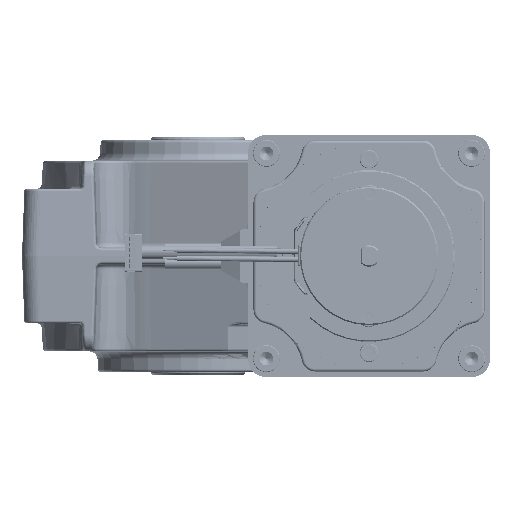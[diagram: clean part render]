
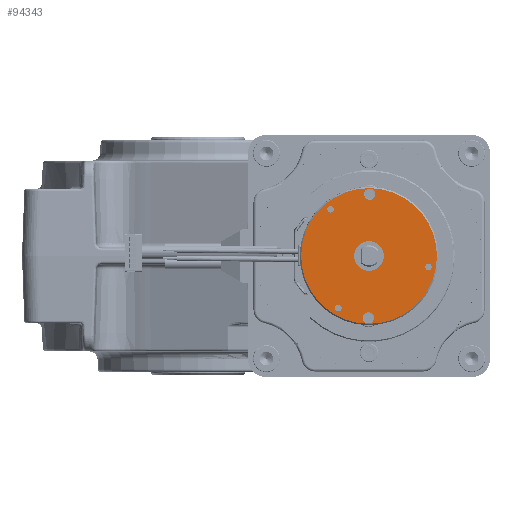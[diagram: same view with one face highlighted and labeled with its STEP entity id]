
A CAD part, left-side view. The second image highlights one B-rep face of the part: STEP entity #94343.
In plain terms, the highlighted planar face has unit normal (-1, 0, 0).
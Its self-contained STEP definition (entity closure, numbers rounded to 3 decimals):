
#571 = DIRECTION ( 'NONE',  ( 1., 0., 0. ) ) ;
#1101 = VERTEX_POINT ( 'NONE', #263324 ) ;
#1618 = VERTEX_POINT ( 'NONE', #479684 ) ;
#2239 = CIRCLE ( 'NONE', #402275, 1.23 ) ;
#5073 = EDGE_CURVE ( 'NONE', #154051, #164333, #128233, .T. ) ;
#5546 = FACE_BOUND ( 'NONE', #367936, .T. ) ;
#5866 = ORIENTED_EDGE ( 'NONE', *, *, #15558, .T. ) ;
#7604 = DIRECTION ( 'NONE',  ( 1., 0., 0. ) ) ;
#8059 = ORIENTED_EDGE ( 'NONE', *, *, #293224, .T. ) ;
#12164 = AXIS2_PLACEMENT_3D ( 'NONE', #213887, #245877, #64023 ) ;
#15558 = EDGE_CURVE ( 'NONE', #467126, #447486, #355494, .T. ) ;
#16350 = VERTEX_POINT ( 'NONE', #187376 ) ;
#19585 = DIRECTION ( 'NONE',  ( 0., -0.508, 0.861 ) ) ;
#28398 = AXIS2_PLACEMENT_3D ( 'NONE', #390172, #353278, #355687 ) ;
#30807 = CARTESIAN_POINT ( 'NONE',  ( -356.459, -28.091, 37.402 ) ) ;
#40044 = DIRECTION ( 'NONE',  ( 0., -0.508, 0.861 ) ) ;
#40792 = CARTESIAN_POINT ( 'NONE',  ( -356.459, -49.585, 32.223 ) ) ;
#49305 = DIRECTION ( 'NONE',  ( 1., 0., 0. ) ) ;
#53709 = EDGE_LOOP ( 'NONE', ( #336926, #360048 ) ) ;
#54395 = CIRCLE ( 'NONE', #273847, 1.229 ) ;
#57483 = DIRECTION ( 'NONE',  ( 1., 0., 0. ) ) ;
#63517 = PLANE ( 'NONE',  #337903 ) ;
#64023 = DIRECTION ( 'NONE',  ( 0., -0.508, 0.861 ) ) ;
#66251 = DIRECTION ( 'NONE',  ( 0., -0.508, 0.861 ) ) ;
#73135 = AXIS2_PLACEMENT_3D ( 'NONE', #30807, #141510, #180876 ) ;
#74809 = ORIENTED_EDGE ( 'NONE', *, *, #86528, .T. ) ;
#76773 = EDGE_LOOP ( 'NONE', ( #74809, #375409 ) ) ;
#78954 = DIRECTION ( 'NONE',  ( -1., 0., 0. ) ) ;
#80875 = CIRCLE ( 'NONE', #292678, 1.23 ) ;
#86528 = EDGE_CURVE ( 'NONE', #419917, #432060, #54395, .T. ) ;
#88756 = DIRECTION ( 'NONE',  ( 0., -0.508, 0.861 ) ) ;
#88847 = DIRECTION ( 'NONE',  ( 0., -0.508, 0.861 ) ) ;
#90862 = DIRECTION ( 'NONE',  ( 1., 0., 0. ) ) ;
#92892 = DIRECTION ( 'NONE',  ( 1., 0., 0. ) ) ;
#94343 = ADVANCED_FACE ( 'NONE', ( #459827, #123391, #5546, #155571, #400021, #351758, #397573 ), #63517, .F. ) ;
#94444 = CARTESIAN_POINT ( 'NONE',  ( -356.459, -50.21, 33.282 ) ) ;
#98112 = CARTESIAN_POINT ( 'NONE',  ( -356.459, -29.379, 62.209 ) ) ;
#99917 = CIRCLE ( 'NONE', #217633, 2.1 ) ;
#101221 = CIRCLE ( 'NONE', #164167, 1.229 ) ;
#107290 = EDGE_CURVE ( 'NONE', #480201, #242357, #80875, .T. ) ;
#108028 = AXIS2_PLACEMENT_3D ( 'NONE', #115929, #78954, #228856 ) ;
#109266 = EDGE_CURVE ( 'NONE', #242357, #480201, #2239, .T. ) ;
#115523 = CIRCLE ( 'NONE', #154988, 5.5 ) ;
#115929 = CARTESIAN_POINT ( 'NONE',  ( -356.459, -28.091, 37.402 ) ) ;
#123036 = CARTESIAN_POINT ( 'NONE',  ( -356.459, -28.091, 37.402 ) ) ;
#123391 = FACE_BOUND ( 'NONE', #301485, .T. ) ;
#128233 = CIRCLE ( 'NONE', #371099, 2.1 ) ;
#131929 = AXIS2_PLACEMENT_3D ( 'NONE', #142529, #405195, #66251 ) ;
#140333 = ORIENTED_EDGE ( 'NONE', *, *, #339569, .T. ) ;
#141510 = DIRECTION ( 'NONE',  ( -1., 0., 0. ) ) ;
#142529 = CARTESIAN_POINT ( 'NONE',  ( -356.459, -13.794, 54.776 ) ) ;
#149889 = EDGE_CURVE ( 'NONE', #383350, #1618, #452771, .T. ) ;
#151597 = EDGE_CURVE ( 'NONE', #432060, #419917, #101221, .T. ) ;
#153873 = CARTESIAN_POINT ( 'NONE',  ( -356.459, -15.256, 15.657 ) ) ;
#154028 = ORIENTED_EDGE ( 'NONE', *, *, #149889, .T. ) ;
#154051 = VERTEX_POINT ( 'NONE', #323657 ) ;
#154988 = AXIS2_PLACEMENT_3D ( 'NONE', #123036, #7604, #272810 ) ;
#155571 = FACE_BOUND ( 'NONE', #53709, .T. ) ;
#159103 = ORIENTED_EDGE ( 'NONE', *, *, #254600, .T. ) ;
#164167 = AXIS2_PLACEMENT_3D ( 'NONE', #219561, #371692, #40044 ) ;
#164333 = VERTEX_POINT ( 'NONE', #98112 ) ;
#170793 = DIRECTION ( 'NONE',  ( 0., -0.508, 0.861 ) ) ;
#180205 = CARTESIAN_POINT ( 'NONE',  ( -356.459, -27.87, 14.403 ) ) ;
#180876 = DIRECTION ( 'NONE',  ( 0., -0.508, 0.861 ) ) ;
#184287 = AXIS2_PLACEMENT_3D ( 'NONE', #393162, #49305, #349018 ) ;
#187376 = CARTESIAN_POINT ( 'NONE',  ( -356.459, -14.419, 55.835 ) ) ;
#196763 = VERTEX_POINT ( 'NONE', #153873 ) ;
#200461 = EDGE_CURVE ( 'NONE', #1618, #383350, #115523, .T. ) ;
#213887 = CARTESIAN_POINT ( 'NONE',  ( -356.459, -28.312, 60.401 ) ) ;
#217633 = AXIS2_PLACEMENT_3D ( 'NONE', #180205, #571, #442781 ) ;
#217763 = CARTESIAN_POINT ( 'NONE',  ( -356.459, -30.886, 42.138 ) ) ;
#218152 = ORIENTED_EDGE ( 'NONE', *, *, #279982, .T. ) ;
#219561 = CARTESIAN_POINT ( 'NONE',  ( -356.459, -16.654, 18.025 ) ) ;
#223921 = CIRCLE ( 'NONE', #12164, 2.1 ) ;
#228856 = DIRECTION ( 'NONE',  ( 0., -0.508, 0.861 ) ) ;
#242357 = VERTEX_POINT ( 'NONE', #330017 ) ;
#242707 = DIRECTION ( 'NONE',  ( 0., -0.508, 0.861 ) ) ;
#245877 = DIRECTION ( 'NONE',  ( 1., 0., 0. ) ) ;
#252663 = DIRECTION ( 'NONE',  ( 1., 0., 0. ) ) ;
#254600 = EDGE_CURVE ( 'NONE', #164333, #154051, #223921, .T. ) ;
#256860 = AXIS2_PLACEMENT_3D ( 'NONE', #390136, #92892, #242707 ) ;
#263324 = CARTESIAN_POINT ( 'NONE',  ( -356.459, -40.925, 59.146 ) ) ;
#269743 = CARTESIAN_POINT ( 'NONE',  ( -356.459, -16.029, 16.966 ) ) ;
#272346 = CIRCLE ( 'NONE', #108028, 25.25 ) ;
#272810 = DIRECTION ( 'NONE',  ( 0., -0.508, 0.861 ) ) ;
#273847 = AXIS2_PLACEMENT_3D ( 'NONE', #284696, #90862, #19585 ) ;
#279982 = EDGE_CURVE ( 'NONE', #16350, #459937, #301836, .T. ) ;
#280757 = CARTESIAN_POINT ( 'NONE',  ( -356.459, -17.279, 19.084 ) ) ;
#284696 = CARTESIAN_POINT ( 'NONE',  ( -356.459, -16.654, 18.025 ) ) ;
#284877 = CIRCLE ( 'NONE', #73135, 25.25 ) ;
#292678 = AXIS2_PLACEMENT_3D ( 'NONE', #94444, #57483, #170793 ) ;
#293224 = EDGE_CURVE ( 'NONE', #447486, #467126, #99917, .T. ) ;
#301485 = EDGE_LOOP ( 'NONE', ( #159103, #465240 ) ) ;
#301836 = CIRCLE ( 'NONE', #28398, 1.23 ) ;
#317156 = CARTESIAN_POINT ( 'NONE',  ( -356.459, -50.21, 33.282 ) ) ;
#323657 = CARTESIAN_POINT ( 'NONE',  ( -356.459, -27.244, 58.592 ) ) ;
#328116 = CIRCLE ( 'NONE', #131929, 1.23 ) ;
#328729 = CARTESIAN_POINT ( 'NONE',  ( -356.459, -30.886, 42.138 ) ) ;
#330017 = CARTESIAN_POINT ( 'NONE',  ( -356.459, -50.835, 34.341 ) ) ;
#336926 = ORIENTED_EDGE ( 'NONE', *, *, #109266, .T. ) ;
#337903 = AXIS2_PLACEMENT_3D ( 'NONE', #328729, #252663, #88847 ) ;
#339569 = EDGE_CURVE ( 'NONE', #1101, #196763, #284877, .T. ) ;
#341936 = DIRECTION ( 'NONE',  ( 0., -0.508, 0.861 ) ) ;
#344977 = EDGE_LOOP ( 'NONE', ( #140333, #480343 ) ) ;
#345042 = ORIENTED_EDGE ( 'NONE', *, *, #200461, .T. ) ;
#349018 = DIRECTION ( 'NONE',  ( 0., -0.508, 0.861 ) ) ;
#349149 = DIRECTION ( 'NONE',  ( 1., 0., 0. ) ) ;
#351758 = FACE_BOUND ( 'NONE', #389208, .T. ) ;
#353278 = DIRECTION ( 'NONE',  ( 1., 0., 0. ) ) ;
#355494 = CIRCLE ( 'NONE', #184287, 2.1 ) ;
#355687 = DIRECTION ( 'NONE',  ( 0., -0.508, 0.861 ) ) ;
#360048 = ORIENTED_EDGE ( 'NONE', *, *, #107290, .T. ) ;
#367936 = EDGE_LOOP ( 'NONE', ( #218152, #463362 ) ) ;
#371099 = AXIS2_PLACEMENT_3D ( 'NONE', #385998, #349149, #341936 ) ;
#371692 = DIRECTION ( 'NONE',  ( 1., 0., 0. ) ) ;
#375409 = ORIENTED_EDGE ( 'NONE', *, *, #151597, .T. ) ;
#383350 = VERTEX_POINT ( 'NONE', #217763 ) ;
#385555 = CARTESIAN_POINT ( 'NONE',  ( -356.459, -26.802, 12.594 ) ) ;
#385998 = CARTESIAN_POINT ( 'NONE',  ( -356.459, -28.312, 60.401 ) ) ;
#389208 = EDGE_LOOP ( 'NONE', ( #154028, #345042 ) ) ;
#390136 = CARTESIAN_POINT ( 'NONE',  ( -356.459, -28.091, 37.402 ) ) ;
#390172 = CARTESIAN_POINT ( 'NONE',  ( -356.459, -13.794, 54.776 ) ) ;
#390935 = DIRECTION ( 'NONE',  ( 1., 0., 0. ) ) ;
#393162 = CARTESIAN_POINT ( 'NONE',  ( -356.459, -27.87, 14.403 ) ) ;
#397573 = FACE_OUTER_BOUND ( 'NONE', #344977, .T. ) ;
#400021 = FACE_BOUND ( 'NONE', #76773, .T. ) ;
#402275 = AXIS2_PLACEMENT_3D ( 'NONE', #317156, #390935, #88756 ) ;
#405195 = DIRECTION ( 'NONE',  ( 1., 0., 0. ) ) ;
#411539 = CARTESIAN_POINT ( 'NONE',  ( -356.459, -13.169, 53.717 ) ) ;
#419917 = VERTEX_POINT ( 'NONE', #280757 ) ;
#432060 = VERTEX_POINT ( 'NONE', #269743 ) ;
#433191 = EDGE_CURVE ( 'NONE', #459937, #16350, #328116, .T. ) ;
#442781 = DIRECTION ( 'NONE',  ( 0., -0.508, 0.861 ) ) ;
#447486 = VERTEX_POINT ( 'NONE', #455976 ) ;
#450027 = EDGE_LOOP ( 'NONE', ( #8059, #5866 ) ) ;
#452771 = CIRCLE ( 'NONE', #256860, 5.5 ) ;
#455304 = EDGE_CURVE ( 'NONE', #196763, #1101, #272346, .T. ) ;
#455976 = CARTESIAN_POINT ( 'NONE',  ( -356.459, -28.937, 16.211 ) ) ;
#459827 = FACE_BOUND ( 'NONE', #450027, .T. ) ;
#459937 = VERTEX_POINT ( 'NONE', #411539 ) ;
#463362 = ORIENTED_EDGE ( 'NONE', *, *, #433191, .T. ) ;
#465240 = ORIENTED_EDGE ( 'NONE', *, *, #5073, .T. ) ;
#467126 = VERTEX_POINT ( 'NONE', #385555 ) ;
#479684 = CARTESIAN_POINT ( 'NONE',  ( -356.459, -25.295, 32.665 ) ) ;
#480201 = VERTEX_POINT ( 'NONE', #40792 ) ;
#480343 = ORIENTED_EDGE ( 'NONE', *, *, #455304, .T. ) ;
